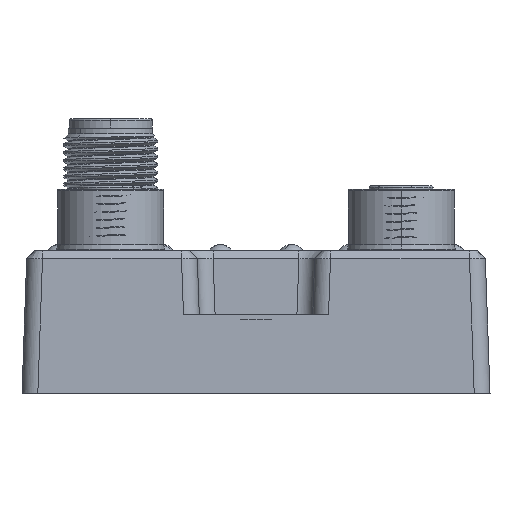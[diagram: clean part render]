
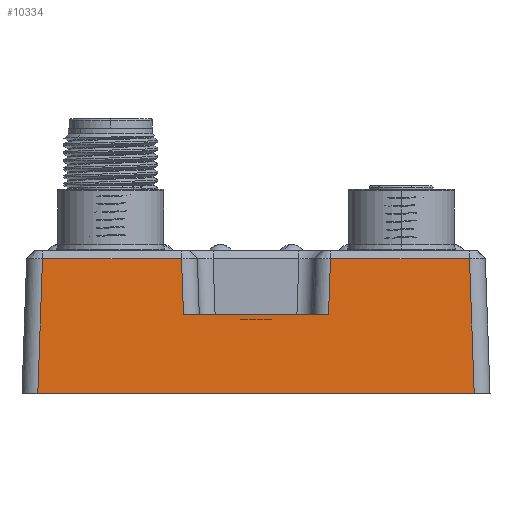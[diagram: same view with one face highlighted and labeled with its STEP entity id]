
A CAD part, front view. The second image highlights one B-rep face of the part: STEP entity #10334.
In plain terms, the highlighted planar face has unit normal (0, -0.999, 0.035).
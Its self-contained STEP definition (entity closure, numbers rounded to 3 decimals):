
#118=DIRECTION('',(0.035,-0.035,-0.999));
#119=VECTOR('',#118,17.021);
#120=CARTESIAN_POINT('',(26.988,-87.987,29.001));
#121=LINE('',#120,#119);
#126=DIRECTION('',(-1.,0.,0.));
#127=VECTOR('',#126,55.164);
#128=CARTESIAN_POINT('',(27.582,-88.581,12.));
#129=LINE('',#128,#127);
#133=DIRECTION('',(0.035,0.035,0.999));
#134=VECTOR('',#133,17.021);
#135=CARTESIAN_POINT('',(-27.582,-88.581,12.));
#136=LINE('',#135,#134);
#140=DIRECTION('',(1.,0.,0.));
#141=VECTOR('',#140,17.571);
#142=CARTESIAN_POINT('',(-26.988,-87.987,29.001));
#143=LINE('',#142,#141);
#147=DIRECTION('',(0.035,-0.035,-0.999));
#148=VECTOR('',#147,7.109);
#149=CARTESIAN_POINT('',(-9.418,-87.987,29.001));
#150=LINE('',#149,#148);
#154=DIRECTION('',(0.035,0.035,0.999));
#155=VECTOR('',#154,7.109);
#156=CARTESIAN_POINT('',(9.17,-88.235,21.9));
#157=LINE('',#156,#155);
#161=DIRECTION('',(1.,0.,0.));
#162=VECTOR('',#161,17.571);
#163=CARTESIAN_POINT('',(9.418,-87.987,29.001));
#164=LINE('',#163,#162);
#1565=DIRECTION('',(-1.,0.,0.));
#1566=VECTOR('',#1565,18.34);
#1567=CARTESIAN_POINT('',(9.17,-88.235,21.9));
#1568=LINE('',#1567,#1566);
#8823=CARTESIAN_POINT('',(26.988,-87.987,29.001));
#8824=CARTESIAN_POINT('',(27.582,-88.581,12.));
#8825=VERTEX_POINT('',#8823);
#8826=VERTEX_POINT('',#8824);
#8827=CARTESIAN_POINT('',(-27.582,-88.581,
12.));
#8828=VERTEX_POINT('',#8827);
#8829=CARTESIAN_POINT('',(-26.988,-87.987,
29.001));
#8830=VERTEX_POINT('',#8829);
#8831=CARTESIAN_POINT('',(-9.418,-87.987,
29.001));
#8832=VERTEX_POINT('',#8831);
#8833=CARTESIAN_POINT('',(-9.17,-88.235,
21.9));
#8834=VERTEX_POINT('',#8833);
#8835=CARTESIAN_POINT('',(9.17,-88.235,21.9));
#8836=VERTEX_POINT('',#8835);
#8837=CARTESIAN_POINT('',(9.418,-87.987,29.001));
#8838=VERTEX_POINT('',#8837);
#10311=CARTESIAN_POINT('',(-32.2,-89.,0.));
#10312=DIRECTION('',(0.,-0.999,0.035));
#10313=DIRECTION('',(1.,0.,0.));
#10314=AXIS2_PLACEMENT_3D('',#10311,#10312,#10313);
#10315=PLANE('',#10314);
#10317=ORIENTED_EDGE('',*,*,#10316,.T.);
#10319=ORIENTED_EDGE('',*,*,#10318,.T.);
#10321=ORIENTED_EDGE('',*,*,#10320,.T.);
#10323=ORIENTED_EDGE('',*,*,#10322,.T.);
#10325=ORIENTED_EDGE('',*,*,#10324,.T.);
#10327=ORIENTED_EDGE('',*,*,#10326,.F.);
#10329=ORIENTED_EDGE('',*,*,#10328,.T.);
#10331=ORIENTED_EDGE('',*,*,#10330,.T.);
#10332=EDGE_LOOP('',(#10317,#10319,#10321,#10323,#10325,#10327,#10329,#10331));
#10333=FACE_OUTER_BOUND('',#10332,.F.);
#10316=EDGE_CURVE('',#8825,#8826,#121,.T.);
#10318=EDGE_CURVE('',#8826,#8828,#129,.T.);
#10320=EDGE_CURVE('',#8828,#8830,#136,.T.);
#10322=EDGE_CURVE('',#8830,#8832,#143,.T.);
#10324=EDGE_CURVE('',#8832,#8834,#150,.T.);
#10326=EDGE_CURVE('',#8836,#8834,#1568,.T.);
#10328=EDGE_CURVE('',#8836,#8838,#157,.T.);
#10330=EDGE_CURVE('',#8838,#8825,#164,.T.);
#10334=ADVANCED_FACE('',(#10333),#10315,.T.);
